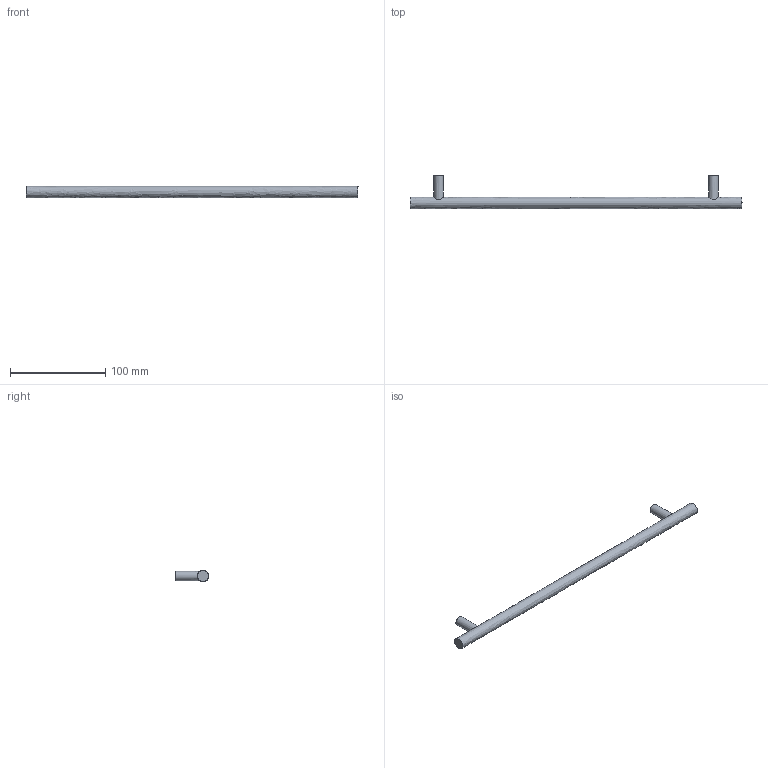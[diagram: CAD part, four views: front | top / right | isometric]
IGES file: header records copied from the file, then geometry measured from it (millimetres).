
Start section: Data from Parasolid IGES Translator 15.0.47, Copyright(c) 2006 Siemens P LM Software. All Rights Reserved.
Global section: file name: 9071020.igs; native system:  By UGS Corp.; preprocessor: XPlus GENERIC/IGES 3.0; author: Noname; organization: Noname; date: 20140122.181317; units: millimetre
Bounding box: 348 x 35 x 12 mm (x, y, z)
Surface area: 15150.8 mm2 (no closed solid volume)
Topology: 0 solids, 0 shells, 11 faces, 30 edges, 22 vertices
Faces by surface type: extrusion 6, revolution 5
